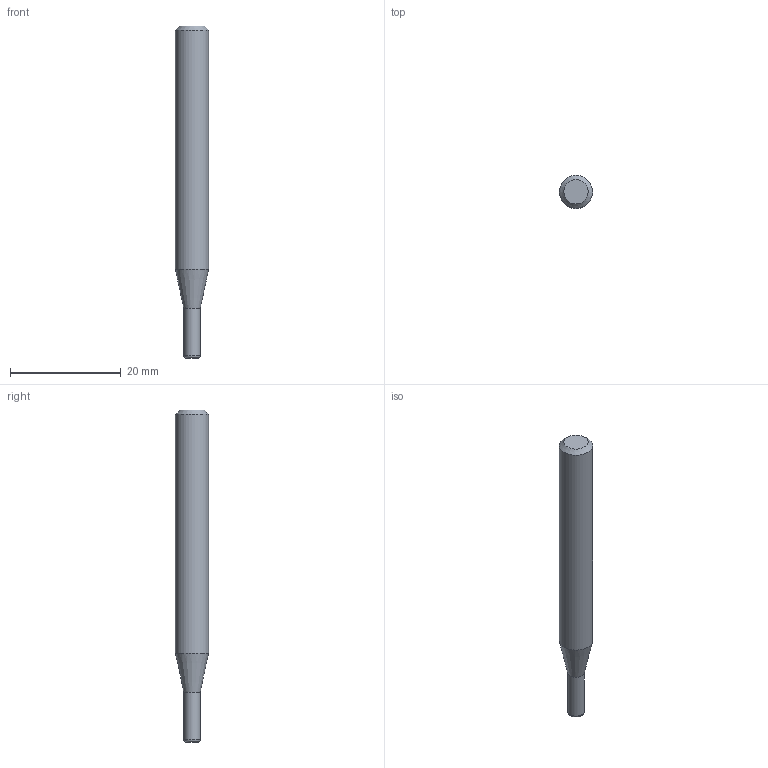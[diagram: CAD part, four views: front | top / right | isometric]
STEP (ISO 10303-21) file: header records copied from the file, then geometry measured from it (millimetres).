
FILE_DESCRIPTION((''),'2;1');
FILE_NAME('C:\Users\nsx150\AppData\Local\Temp\Mastercam 2021\03UJLO2QV3\TEMP.step','2023-09-20T09:29:29',(''),(''),'STEP Write','Mastercam 2021 ... CNC Software, Inc.','');
FILE_SCHEMA(('AUTOMOTIVE_DESIGN'));
Length unit declared in the file: millimetre
Products named in the file (1): None
Bounding box: 6 x 6 x 60 mm (x, y, z)
Volume: 1416.7 mm3; surface area: 1053.2 mm2
Topology: 2 solids, 2 shells, 9 faces, 12 edges, 7 vertices
Faces by surface type: plane 4, cylinder 2, cone 2, torus 1
Full cylindrical faces by diameter (mm): 3 x1, 6 x1
Entity records: 211 total; most frequent: DIRECTION 36, CARTESIAN_POINT 25, AXIS2_PLACEMENT_3D 18, ORIENTED_EDGE 14, EDGE_LOOP 14, STYLED_ITEM 12, ADVANCED_FACE 9, FACE_BOUND 8
